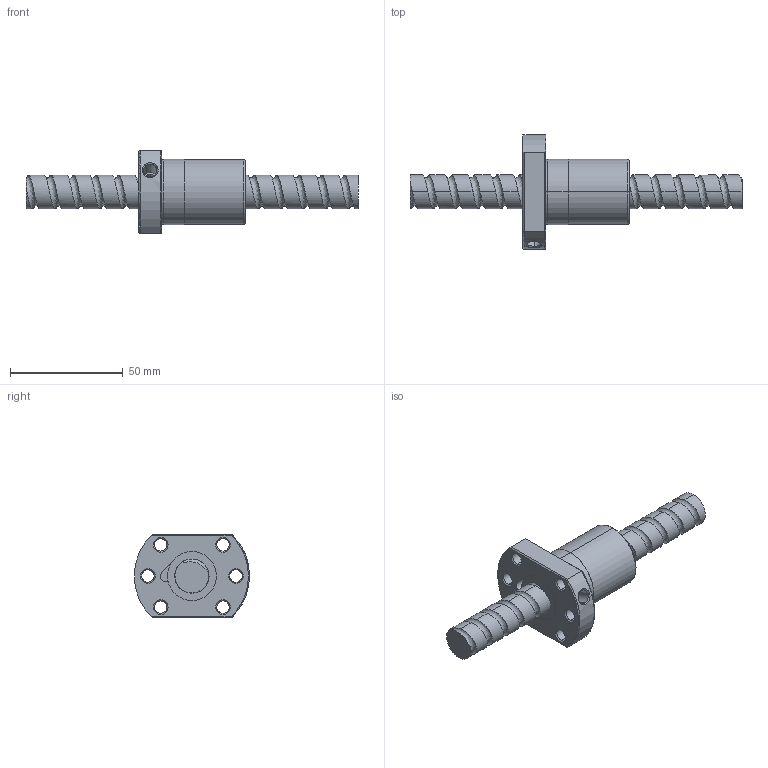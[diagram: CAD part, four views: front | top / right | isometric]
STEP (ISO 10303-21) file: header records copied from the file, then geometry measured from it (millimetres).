
FILE_DESCRIPTION (( 'STEP AP214' ), '1' );
FILE_NAME ('FSDC01510T3-B-C.STEP', '2010-06-25T11:24:41', ( 'XPAUTO' ), ( 'XPAUTO' ), 'SwSTEP 2.0', 'SolidWorks 2007', '' );
FILE_SCHEMA (( 'AUTOMOTIVE_DESIGN' ));
Length unit declared in the file: millimetre
Products named in the file (3): FSDC01510T3-B-C.sldasm-Part-1_預設; FSDC01510T3-B-C; FSDC01510T3-B-C.sldasm-Part-2_預設
Assembly tree (2 placements, depth 2):
  FSDC01510T3-B-C
    FSDC01510T3-B-C.sldasm-Part-2_預設
    FSDC01510T3-B-C.sldasm-Part-1_預設
Bounding box: 147 x 50.9 x 37 mm (x, y, z)
Volume: 54672.1 mm3; surface area: 19220 mm2
Topology: 2 solids, 2 shells, 125 faces, 317 edges, 200 vertices
Faces by surface type: cylinder 70, cone 24, plane 22, bspline 5, torus 4
Entity records: 24882 total; most frequent: CARTESIAN_POINT 21868, ORIENTED_EDGE 636, DIRECTION 582, EDGE_CURVE 318, AXIS2_PLACEMENT_3D 235, VERTEX_POINT 201, EDGE_LOOP 145, FACE_OUTER_BOUND 125
